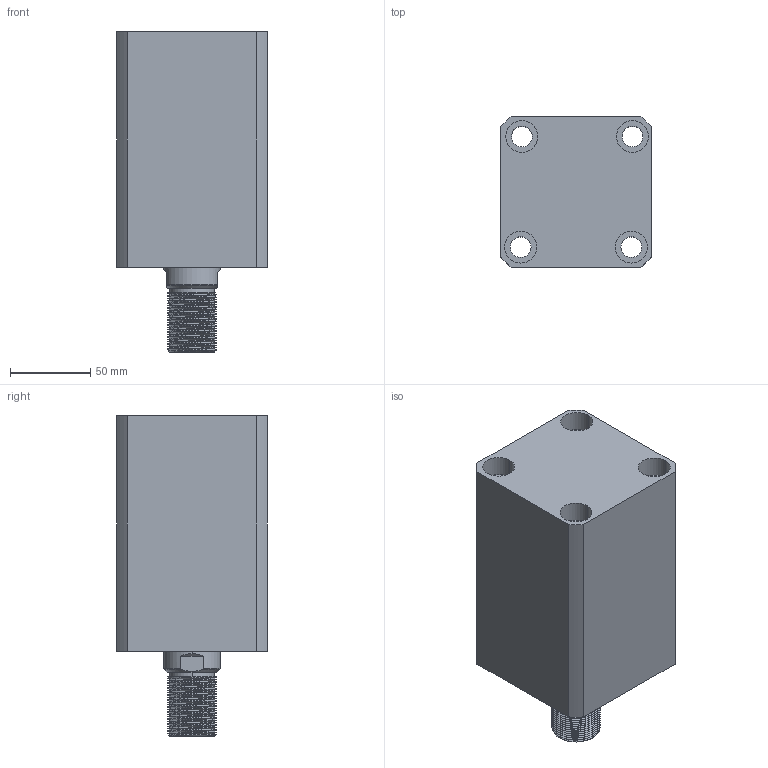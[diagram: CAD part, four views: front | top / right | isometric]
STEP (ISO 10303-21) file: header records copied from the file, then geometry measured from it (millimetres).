
FILE_DESCRIPTION (( 'STEP AP214' ), '1' );
FILE_NAME ('chtb-sdma63x80w_asm.STEP', '2018-05-18T09:40:33', ( 'Windows' ), ( 'Microsoft' ), 'SwSTEP 2.0', 'SolidWorks 2015', '' );
FILE_SCHEMA (( 'AUTOMOTIVE_DESIGN' ));
Length unit declared in the file: millimetre
Products named in the file (4): CHTB-SDMA63X80NBT; CHTB63X80WHSG; CHTB-63QG; chtb-sdma63x80w_asm
Assembly tree (3 placements, depth 2):
  chtb-sdma63x80w_asm
    CHTB-63QG
    CHTB63X80WHSG
    CHTB-SDMA63X80NBT
Bounding box: 94 x 94 x 200 mm (x, y, z)
Volume: 1053450.7 mm3; surface area: 176012.8 mm2
Topology: 3 solids, 3 shells, 219 faces, 632 edges, 430 vertices
Faces by surface type: cylinder 156, plane 34, bspline 14, cone 9, torus 6
Entity records: 22297 total; most frequent: CARTESIAN_POINT 17024, ORIENTED_EDGE 1256, DIRECTION 878, EDGE_CURVE 628, VERTEX_POINT 430, AXIS2_PLACEMENT_3D 343, EDGE_LOOP 252, FACE_OUTER_BOUND 219
